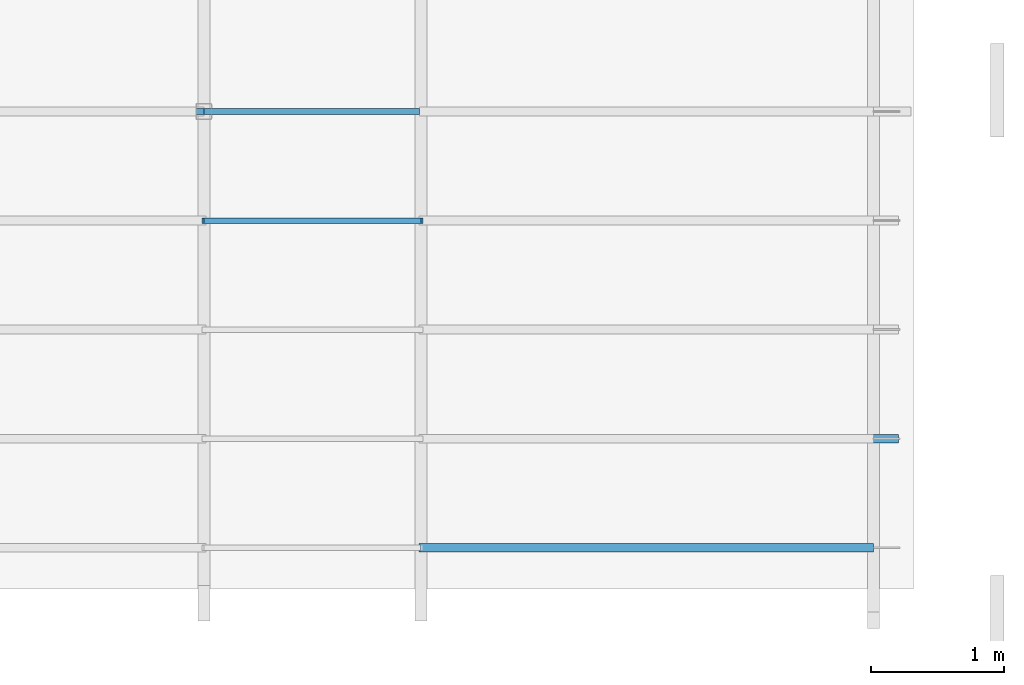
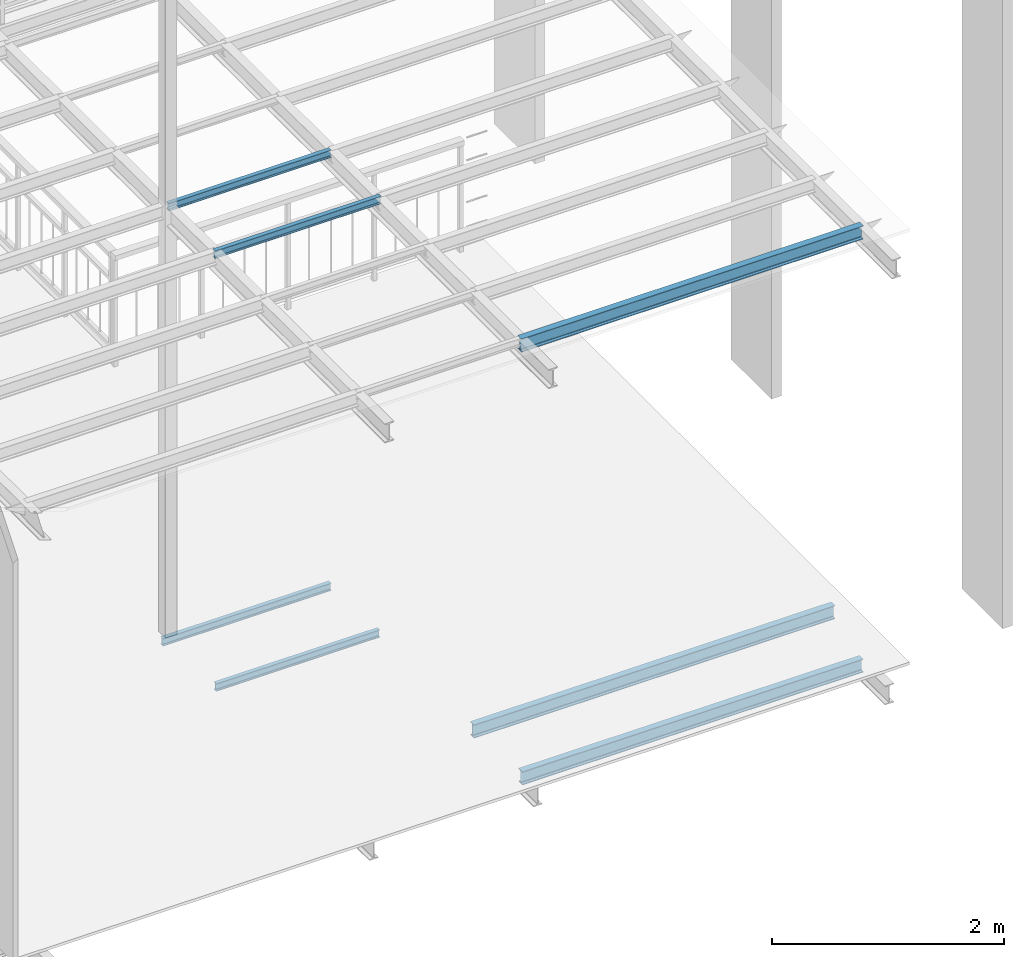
# One storey, part 5 of 33: 7 beams.
"""IFC2X3 building model written with IfcOpenShell, lengths in metres."""

from ifc_helpers import new_model, entity, si_unit, converted_unit, derived_unit, direction, frame, frame_2d, origin, place, context, subcontext, project, spatial, polyline, circle_curve, parameter, trimmed, segment, composite_curve, outline, extrude, material, type_object, element, save


model = new_model("IFC2X3")

# Units and contexts
model_context = context("Model", 3, precision=1e-05, world=origin(), true_north=direction((6.12303176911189e-17, 1.0)))
body_context = subcontext(model_context, "Body", "Model", "MODEL_VIEW")
ifc_project = project(units=[si_unit("LENGTHUNIT", "METRE"), si_unit("AREAUNIT", "SQUARE_METRE"), si_unit("VOLUMEUNIT", "CUBIC_METRE"), converted_unit("PLANEANGLEUNIT", "DEGREE", entity("IfcRatioMeasure", 0.0174532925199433), si_unit("PLANEANGLEUNIT", "RADIAN"), dimensions=[0, 0, 0, 0, 0, 0, 0]), si_unit("MASSUNIT", "GRAM", prefix="KILO"), derived_unit("MASSDENSITYUNIT", [(si_unit("MASSUNIT", "GRAM", prefix="KILO"), 1), (si_unit("LENGTHUNIT", "METRE"), -3)]), derived_unit("MOMENTOFINERTIAUNIT", [(si_unit("LENGTHUNIT", "METRE"), 4)]), si_unit("TIMEUNIT", "SECOND"), si_unit("FREQUENCYUNIT", "HERTZ"), si_unit("THERMODYNAMICTEMPERATUREUNIT", "DEGREE_CELSIUS"), derived_unit("THERMALTRANSMITTANCEUNIT", [(si_unit("MASSUNIT", "GRAM", prefix="KILO"), 1), (si_unit("THERMODYNAMICTEMPERATUREUNIT", "KELVIN"), -1), (si_unit("TIMEUNIT", "SECOND"), -3)]), derived_unit("VOLUMETRICFLOWRATEUNIT", [(si_unit("LENGTHUNIT", "METRE"), 3), (si_unit("TIMEUNIT", "SECOND"), -1)]), si_unit("ELECTRICCURRENTUNIT", "AMPERE"), si_unit("ELECTRICVOLTAGEUNIT", "VOLT"), si_unit("POWERUNIT", "WATT"), si_unit("FORCEUNIT", "NEWTON", prefix="KILO"), si_unit("ILLUMINANCEUNIT", "LUX"), si_unit("LUMINOUSFLUXUNIT", "LUMEN"), si_unit("LUMINOUSINTENSITYUNIT", "CANDELA"), derived_unit("USERDEFINED", [(si_unit("MASSUNIT", "GRAM", prefix="KILO"), -1), (si_unit("LENGTHUNIT", "METRE"), -2), (si_unit("TIMEUNIT", "SECOND"), 3), (si_unit("LUMINOUSFLUXUNIT", "LUMEN"), 1)]), derived_unit("LINEARVELOCITYUNIT", [(si_unit("LENGTHUNIT", "METRE"), 1), (si_unit("TIMEUNIT", "SECOND"), -1)]), si_unit("PRESSUREUNIT", "PASCAL"), derived_unit("USERDEFINED", [(si_unit("LENGTHUNIT", "METRE"), -2), (si_unit("MASSUNIT", "GRAM", prefix="KILO"), 1), (si_unit("TIMEUNIT", "SECOND"), -2)]), derived_unit("LINEARFORCEUNIT", [(si_unit("MASSUNIT", "GRAM", prefix="KILO"), 1), (si_unit("LENGTHUNIT", "METRE"), 1), (si_unit("TIMEUNIT", "SECOND"), -2), (si_unit("LENGTHUNIT", "METRE"), -1)]), derived_unit("PLANARFORCEUNIT", [(si_unit("MASSUNIT", "GRAM", prefix="KILO"), 1), (si_unit("LENGTHUNIT", "METRE"), 1), (si_unit("TIMEUNIT", "SECOND"), -2), (si_unit("LENGTHUNIT", "METRE"), -2)])], contexts=[model_context])

# Site, building, storey
site_placement = place(None, origin())
site = spatial("IfcSite", under=ifc_project, at=site_placement, Name="Superficie", CompositionType="ELEMENT")
building_placement = place(site_placement, origin())
building = spatial("IfcBuilding", under=site, at=building_placement, Name="Telegestiones", CompositionType="ELEMENT")
storey_placement = place(building_placement, frame((0.0, 0.0, 4.94)))
storey = spatial("IfcBuildingStorey", under=building, at=storey_placement, Name="Nivel 1_NPT", CompositionType="ELEMENT", Elevation=4.94)

# Beams
ifc_material = material(Name="Metal - Acero - 345 MPa")
beam_type_1 = type_object("IfcBeamType", Name="IPN - Secciones en I con alas cónicas:IPN 140", PredefinedType="NOTDEFINED")
beam_1_placement = place(storey_placement, frame((11.274812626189, -4.67964277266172, 0.0)))
element("IfcBeam", 1, at=beam_1_placement, inside=storey, type_object=beam_type_1, material=ifc_material, Name="IPN - Secciones en I con alas cónicas:IPN 140", ObjectType="IPN - Secciones en I con alas cónicas:IPN 140", context=body_context, shape_type="SweptSolid", body=[
    extrude(outline(composite_curve([segment(polyline([(0.0666671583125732, -0.0330000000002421), (0.0699999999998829, -0.0330000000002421)]), True, "CONTINUOUS"), segment(polyline([(0.0699999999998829, -0.0330000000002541), (0.0700000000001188, 0.0329999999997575)]), True, "CONTINUOUS"), segment(polyline([(0.0700000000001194, 0.0329999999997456), (0.0666671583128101, 0.0329999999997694)]), True, "CONTINUOUS"), segment(trimmed(circle_curve(frame_2d((0.0666671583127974, 0.0295999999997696), x_axis=(0.0, 1.0)), 0.00339999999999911), [parameter(0.0)], [parameter(82.0303896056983)], True, "PARAMETER"), True, "CONTINUOUS"), segment(polyline([(0.0632999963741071, 0.030071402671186), (0.0601763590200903, 0.00775970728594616)]), True, "CONTINUOUS"), segment(trimmed(circle_curve(frame_2d((0.0545314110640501, 0.00854999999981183), x_axis=(0.990341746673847, -0.138647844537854)), 0.00569999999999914), [parameter(277.969610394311)], [parameter(0.0)], True, "PARAMETER"), False, "CONTINUOUS"), segment(polyline([(0.0545314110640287, 0.00284999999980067), (-0.0545314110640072, 0.00285000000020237)]), True, "CONTINUOUS"), segment(trimmed(circle_curve(frame_2d((-0.0545314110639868, 0.00855000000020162), x_axis=(0.0, -1.0)), 0.00569999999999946), [parameter(277.969610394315)], [parameter(0.0)], True, "PARAMETER"), False, "CONTINUOUS"), segment(polyline([(-0.0601763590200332, 0.00775970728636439), (-0.06329999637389, 0.0300714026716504)]), True, "CONTINUOUS"), segment(trimmed(circle_curve(frame_2d((-0.0666671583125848, 0.0296000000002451), x_axis=(0.990341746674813, 0.138647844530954)), 0.0034000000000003), [parameter(0.0)], [parameter(82.0303896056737)], True, "PARAMETER"), True, "CONTINUOUS"), segment(polyline([(-0.0666671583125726, 0.033000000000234), (-0.0699999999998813, 0.0330000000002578)]), True, "CONTINUOUS"), segment(polyline([(-0.0699999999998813, 0.0330000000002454), (-0.0700000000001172, -0.0329999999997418)]), True, "CONTINUOUS"), segment(polyline([(-0.0700000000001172, -0.0329999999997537), (-0.0666671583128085, -0.0329999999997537)]), True, "CONTINUOUS"), segment(trimmed(circle_curve(frame_2d((-0.0666671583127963, -0.0295999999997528), x_axis=(0.0, -1.0)), 0.0034000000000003), [parameter(0.0)], [parameter(82.0303896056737)], True, "PARAMETER"), True, "CONTINUOUS"), segment(polyline([(-0.0632999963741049, -0.0300714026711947), (-0.0601763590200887, -0.007759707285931)]), True, "CONTINUOUS"), segment(trimmed(circle_curve(frame_2d((-0.054531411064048, -0.00854999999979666), x_axis=(-0.990341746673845, 0.138647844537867)), 0.00569999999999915), [parameter(277.969610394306)], [parameter(0.0)], True, "PARAMETER"), False, "CONTINUOUS"), segment(polyline([(-0.0545314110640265, -0.00284999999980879), (0.0545314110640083, -0.00285000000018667)]), True, "CONTINUOUS"), segment(trimmed(circle_curve(frame_2d((0.0545314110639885, -0.00855000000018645), x_axis=(0.0, 1.0)), 0.00569999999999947), [parameter(277.969610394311)], [parameter(0.0)], True, "PARAMETER"), False, "CONTINUOUS"), segment(polyline([(0.0601763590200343, -0.00775970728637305), (0.0632999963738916, -0.0300714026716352)]), True, "CONTINUOUS"), segment(trimmed(circle_curve(frame_2d((0.0666671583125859, -0.0296000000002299), x_axis=(-0.990341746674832, -0.13864784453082)), 0.00339999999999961), [parameter(0.0)], [parameter(82.0303896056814)], True, "PARAMETER"), True, "CONTINUOUS")], self_intersect=False)), frame((-0.0149999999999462, 0.0, -0.100000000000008), z_axis=(1.0, 0.0, 0.0), x_axis=(0.0, 0.0, -1.0)), (0.0, 0.0, 1.0), 3.59499999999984),
])
beam_type_2 = type_object("IfcBeamType", Name="EST-VI-PNI-Acero:EST-VI-IPN 140", PredefinedType="NOTDEFINED")
beam_2_placement = place(storey_placement, frame((11.2608126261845, -5.49739277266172, 0.0)))
element("IfcBeam", 2, at=beam_2_placement, inside=storey, type_object=beam_type_2, material=ifc_material, Name="EST-VI-PNI-Acero:EST-VI-IPN 140", ObjectType="EST-VI-PNI-Acero:EST-VI-IPN 140", context=body_context, shape_type="SweptSolid", body=[
    extrude(outline(composite_curve([segment(polyline([(0.0666671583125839, -0.033000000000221), (0.0699999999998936, -0.033000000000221)]), True, "CONTINUOUS"), segment(polyline([(0.0699999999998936, -0.0330000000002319), (0.0700000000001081, 0.0329999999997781)]), True, "CONTINUOUS"), segment(polyline([(0.0700000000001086, 0.0329999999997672), (0.0666671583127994, 0.0329999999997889)]), True, "CONTINUOUS"), segment(trimmed(circle_curve(frame_2d((0.0666671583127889, 0.0295999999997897), x_axis=(0.0, 1.0)), 0.00340000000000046), [parameter(0.0)], [parameter(82.0303896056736)], True, "PARAMETER"), True, "CONTINUOUS"), segment(polyline([(0.0632999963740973, 0.0300714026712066), (0.0601763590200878, 0.00775970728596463)]), True, "CONTINUOUS"), segment(trimmed(circle_curve(frame_2d((0.0545314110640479, 0.00854999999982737), x_axis=(0.990341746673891, -0.138647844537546)), 0.00569999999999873), [parameter(277.969610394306)], [parameter(0.0)], True, "PARAMETER"), False, "CONTINUOUS"), segment(polyline([(0.0545314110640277, 0.00284999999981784), (-0.0545314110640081, 0.00285000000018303)]), True, "CONTINUOUS"), segment(trimmed(circle_curve(frame_2d((-0.0545314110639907, 0.00855000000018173), x_axis=(0.0, -1.0)), 0.00569999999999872), [parameter(277.969610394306)], [parameter(0.0)], True, "PARAMETER"), False, "CONTINUOUS"), segment(polyline([(-0.0601763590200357, 0.00775970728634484), (-0.0632999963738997, 0.0300714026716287)]), True, "CONTINUOUS"), segment(trimmed(circle_curve(frame_2d((-0.0666671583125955, 0.0296000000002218), x_axis=(0.990341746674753, 0.138647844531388)), 0.00340000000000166), [parameter(0.0)], [parameter(82.0303896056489)], True, "PARAMETER"), True, "CONTINUOUS"), segment(polyline([(-0.0666671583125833, 0.0330000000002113), (-0.069999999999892, 0.0330000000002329)]), True, "CONTINUOUS"), segment(polyline([(-0.069999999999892, 0.0330000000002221), (-0.0700000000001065, -0.0329999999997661)]), True, "CONTINUOUS"), segment(polyline([(-0.0700000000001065, -0.032999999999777), (-0.0666671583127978, -0.032999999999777)]), True, "CONTINUOUS"), segment(trimmed(circle_curve(frame_2d((-0.0666671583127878, -0.0295999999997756), x_axis=(0.0, -1.0)), 0.00340000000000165), [parameter(0.0)], [parameter(82.0303896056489)], True, "PARAMETER"), True, "CONTINUOUS"), segment(polyline([(-0.0632999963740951, -0.0300714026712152), (-0.0601763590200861, -0.00775970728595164)]), True, "CONTINUOUS"), segment(trimmed(circle_curve(frame_2d((-0.0545314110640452, -0.00854999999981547), x_axis=(-0.99034174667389, 0.138647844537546)), 0.00569999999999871), [parameter(277.969610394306)], [parameter(0.0)], True, "PARAMETER"), False, "CONTINUOUS"), segment(polyline([(-0.0545314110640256, -0.00284999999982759), (0.0545314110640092, -0.00285000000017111)]), True, "CONTINUOUS"), segment(trimmed(circle_curve(frame_2d((0.0545314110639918, -0.00855000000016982), x_axis=(0.0, 1.0)), 0.0056999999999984), [parameter(277.969610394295)], [parameter(0.0)], True, "PARAMETER"), False, "CONTINUOUS"), segment(polyline([(0.0601763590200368, -0.0077597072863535), (0.0632999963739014, -0.0300714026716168)]), True, "CONTINUOUS"), segment(trimmed(circle_curve(frame_2d((0.0666671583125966, -0.0296000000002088), x_axis=(-0.99034174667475, -0.13864784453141)), 0.00340000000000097), [parameter(0.0)], [parameter(82.0303896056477)], True, "PARAMETER"), True, "CONTINUOUS")], self_intersect=False)), frame((0.00799999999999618, 0.0, -0.100000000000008), z_axis=(1.0, 0.0, 0.0), x_axis=(0.0, 0.0, -1.0)), (0.0, 0.0, 1.0), 3.396),
])
beam_3_placement = place(storey_placement, frame((11.2748126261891, -5.49739277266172, 4.56)))
element("IfcBeam", 3, at=beam_3_placement, inside=storey, type_object=beam_type_2, material=ifc_material, Name="EST-VI-PNI-Acero:EST-VI-IPN 140", ObjectType="EST-VI-PNI-Acero:EST-VI-IPN 140", context=body_context, shape_type="SweptSolid", body=[
    extrude(outline(composite_curve([segment(polyline([(0.0666671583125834, -0.0330000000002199), (0.0699999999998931, -0.0330000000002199)]), True, "CONTINUOUS"), segment(polyline([(0.0699999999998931, -0.0330000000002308), (0.0700000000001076, 0.0329999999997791)]), True, "CONTINUOUS"), segment(polyline([(0.0700000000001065, 0.0329999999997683), (0.0666671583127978, 0.03299999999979)]), True, "CONTINUOUS"), segment(trimmed(circle_curve(frame_2d((0.0666671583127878, 0.0295999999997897), x_axis=(0.0, 1.0)), 0.00340000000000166), [parameter(0.0)], [parameter(82.0303896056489)], True, "PARAMETER"), True, "CONTINUOUS"), segment(polyline([(0.0632999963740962, 0.0300714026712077), (0.0601763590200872, 0.00775970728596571)]), True, "CONTINUOUS"), segment(trimmed(circle_curve(frame_2d((0.0545314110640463, 0.00854999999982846), x_axis=(0.990341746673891, -0.138647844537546)), 0.00569999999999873), [parameter(277.969610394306)], [parameter(0.0)], True, "PARAMETER"), False, "CONTINUOUS"), segment(polyline([(0.0545314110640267, 0.00284999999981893), (-0.0545314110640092, 0.00285000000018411)]), True, "CONTINUOUS"), segment(trimmed(circle_curve(frame_2d((-0.0545314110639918, 0.00855000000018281), x_axis=(0.0, -1.0)), 0.00569999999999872), [parameter(277.969610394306)], [parameter(0.0)], True, "PARAMETER"), False, "CONTINUOUS"), segment(polyline([(-0.0601763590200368, 0.00775970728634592), (-0.0632999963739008, 0.0300714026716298)]), True, "CONTINUOUS"), segment(trimmed(circle_curve(frame_2d((-0.0666671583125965, 0.0296000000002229), x_axis=(0.990341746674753, 0.138647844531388)), 0.00340000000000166), [parameter(0.0)], [parameter(82.0303896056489)], True, "PARAMETER"), True, "CONTINUOUS"), segment(polyline([(-0.0666671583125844, 0.0330000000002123), (-0.0699999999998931, 0.033000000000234)]), True, "CONTINUOUS"), segment(polyline([(-0.0699999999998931, 0.0330000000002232), (-0.0700000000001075, -0.0329999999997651)]), True, "CONTINUOUS"), segment(polyline([(-0.0700000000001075, -0.0329999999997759), (-0.0666671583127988, -0.0329999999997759)]), True, "CONTINUOUS"), segment(trimmed(circle_curve(frame_2d((-0.0666671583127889, -0.0295999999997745), x_axis=(0.0, -1.0)), 0.00340000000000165), [parameter(0.0)], [parameter(82.0303896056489)], True, "PARAMETER"), True, "CONTINUOUS"), segment(polyline([(-0.0632999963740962, -0.0300714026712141), (-0.0601763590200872, -0.00775970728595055)]), True, "CONTINUOUS"), segment(trimmed(circle_curve(frame_2d((-0.0545314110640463, -0.00854999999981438), x_axis=(-0.990341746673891, 0.138647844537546)), 0.00569999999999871), [parameter(277.969610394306)], [parameter(0.0)], True, "PARAMETER"), False, "CONTINUOUS"), segment(polyline([(-0.0545314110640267, -0.00284999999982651), (0.0545314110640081, -0.00285000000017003)]), True, "CONTINUOUS"), segment(trimmed(circle_curve(frame_2d((0.0545314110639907, -0.00855000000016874), x_axis=(0.0, 1.0)), 0.0056999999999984), [parameter(277.969610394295)], [parameter(0.0)], True, "PARAMETER"), False, "CONTINUOUS"), segment(polyline([(0.0601763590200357, -0.00775970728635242), (0.0632999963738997, -0.0300714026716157)]), True, "CONTINUOUS"), segment(trimmed(circle_curve(frame_2d((0.0666671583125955, -0.0296000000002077), x_axis=(-0.990341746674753, -0.138647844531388)), 0.00340000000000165), [parameter(0.0)], [parameter(82.0303896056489)], True, "PARAMETER"), True, "CONTINUOUS")], self_intersect=False)), frame((-0.0150000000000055, 0.0, -0.100000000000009), z_axis=(1.0, 0.0, 0.0), x_axis=(0.0, 0.0, -1.0)), (0.0, 0.0, 1.0), 3.405),
])
beam_type_3 = type_object("IfcBeamType", Name="IPN - Secciones en I con alas cónicas:IPN 80", PredefinedType="NOTDEFINED")
beam_4_placement = place(storey_placement, frame((9.64481262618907, -2.22639277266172, 0.0)))
element("IfcBeam", 4, at=beam_4_placement, inside=storey, type_object=beam_type_3, material=ifc_material, Name="IPN - Secciones en I con alas cónicas:IPN 80", ObjectType="IPN - Secciones en I con alas cónicas:IPN 80", context=body_context, shape_type="SweptSolid", body=[
    extrude(outline(composite_curve([segment(polyline([(0.0375704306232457, -0.0210000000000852), (0.0399999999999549, -0.0210000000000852)]), True, "CONTINUOUS"), segment(polyline([(0.0399999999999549, -0.0210000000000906), (0.0400000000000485, 0.0209999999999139)]), True, "CONTINUOUS"), segment(polyline([(0.0400000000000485, 0.0209999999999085), (0.0375704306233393, 0.0209999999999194)]), True, "CONTINUOUS"), segment(trimmed(circle_curve(frame_2d((0.0375704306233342, 0.0186999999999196), x_axis=(0.0, 1.0)), 0.00229999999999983), [parameter(0.0)], [parameter(82.030389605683)], True, "PARAMETER"), True, "CONTINUOUS"), segment(polyline([(0.0352926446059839, 0.0190188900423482), (0.0333732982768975, 0.00530927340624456)]), True, "CONTINUOUS"), segment(trimmed(circle_curve(frame_2d((0.029510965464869, 0.00584999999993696), x_axis=(0.990341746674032, -0.13864784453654)), 0.0038999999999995), [parameter(277.969610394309)], [parameter(0.0)], True, "PARAMETER"), False, "CONTINUOUS"), segment(polyline([(0.0295109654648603, 0.0019499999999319), (-0.0295109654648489, 0.00195000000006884)]), True, "CONTINUOUS"), segment(trimmed(circle_curve(frame_2d((-0.0295109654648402, 0.00585000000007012), x_axis=(0.0, -1.0)), 0.00390000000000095), [parameter(277.969610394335)], [parameter(0.0)], True, "PARAMETER"), False, "CONTINUOUS"), segment(polyline([(-0.0333732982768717, 0.00530927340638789), (-0.035292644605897, 0.0190188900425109)]), True, "CONTINUOUS"), segment(trimmed(circle_curve(frame_2d((-0.0375704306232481, 0.0187000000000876), x_axis=(0.990341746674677, 0.138647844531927)), 0.00229999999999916), [parameter(0.0)], [parameter(82.0303896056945)], True, "PARAMETER"), True, "CONTINUOUS"), segment(polyline([(-0.037570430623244, 0.0210000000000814), (-0.0399999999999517, 0.0210000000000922)]), True, "CONTINUOUS"), segment(polyline([(-0.0399999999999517, 0.0210000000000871), (-0.0400000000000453, -0.0209999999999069)]), True, "CONTINUOUS"), segment(polyline([(-0.0400000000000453, -0.0209999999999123), (-0.0375704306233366, -0.0209999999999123)]), True, "CONTINUOUS"), segment(trimmed(circle_curve(frame_2d((-0.0375704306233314, -0.0186999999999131), x_axis=(0.0, -1.0)), 0.00229999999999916), [parameter(0.0)], [parameter(82.0303896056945)], True, "PARAMETER"), True, "CONTINUOUS"), segment(polyline([(-0.0352926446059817, -0.019018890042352), (-0.0333732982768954, -0.00530927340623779)]), True, "CONTINUOUS"), segment(trimmed(circle_curve(frame_2d((-0.0295109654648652, -0.00584999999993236), x_axis=(-0.990341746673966, 0.138647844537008)), 0.00390000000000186), [parameter(277.96961039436)], [parameter(0.0)], True, "PARAMETER"), False, "CONTINUOUS"), segment(polyline([(-0.0295109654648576, -0.00194999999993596), (0.0295109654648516, -0.00195000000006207)]), True, "CONTINUOUS"), segment(trimmed(circle_curve(frame_2d((0.0295109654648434, -0.00585000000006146), x_axis=(0.0, 1.0)), 0.00389999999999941), [parameter(277.969610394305)], [parameter(0.0)], True, "PARAMETER"), False, "CONTINUOUS"), segment(polyline([(0.0333732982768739, -0.00530927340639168), (0.0352926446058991, -0.0190188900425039)]), True, "CONTINUOUS"), segment(trimmed(circle_curve(frame_2d((0.0375704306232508, -0.01870000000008), x_axis=(-0.990341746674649, -0.138647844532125)), 0.00229999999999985), [parameter(0.0)], [parameter(82.030389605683)], True, "PARAMETER"), True, "CONTINUOUS")], self_intersect=False)), frame((-0.0600000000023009, 0.0, -0.0700000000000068), z_axis=(1.0, 0.0, 0.0), x_axis=(0.0, 0.0, -1.0)), (0.0, 0.0, 1.0), 1.67700000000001),
])
beam_5_placement = place(storey_placement, frame((9.64481262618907, -3.04414277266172, 0.0)))
element("IfcBeam", 5, at=beam_5_placement, inside=storey, type_object=beam_type_3, material=ifc_material, Name="IPN - Secciones en I con alas cónicas:IPN 80", ObjectType="IPN - Secciones en I con alas cónicas:IPN 80", context=body_context, shape_type="SweptSolid", body=[
    extrude(outline(composite_curve([segment(polyline([(0.0375704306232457, -0.021000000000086), (0.0399999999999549, -0.021000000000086)]), True, "CONTINUOUS"), segment(polyline([(0.0399999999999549, -0.0210000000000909), (0.0400000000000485, 0.0209999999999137)]), True, "CONTINUOUS"), segment(polyline([(0.0400000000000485, 0.0209999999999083), (0.0375704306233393, 0.0209999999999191)]), True, "CONTINUOUS"), segment(trimmed(circle_curve(frame_2d((0.0375704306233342, 0.0186999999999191), x_axis=(0.0, 1.0)), 0.00229999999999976), [parameter(0.0)], [parameter(82.0303896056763)], True, "PARAMETER"), True, "CONTINUOUS"), segment(polyline([(0.0352926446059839, 0.019018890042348), (0.0333732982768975, 0.00530927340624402)]), True, "CONTINUOUS"), segment(trimmed(circle_curve(frame_2d((0.0295109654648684, 0.00584999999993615), x_axis=(0.990341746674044, -0.138647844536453)), 0.00389999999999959), [parameter(277.969610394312)], [parameter(0.0)], True, "PARAMETER"), False, "CONTINUOUS"), segment(polyline([(0.0295109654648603, 0.00194999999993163), (-0.0295109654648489, 0.00195000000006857)]), True, "CONTINUOUS"), segment(trimmed(circle_curve(frame_2d((-0.0295109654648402, 0.00585000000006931), x_axis=(0.0, -1.0)), 0.00390000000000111), [parameter(277.969610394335)], [parameter(0.0)], True, "PARAMETER"), False, "CONTINUOUS"), segment(polyline([(-0.0333732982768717, 0.00530927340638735), (-0.035292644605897, 0.0190188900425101)]), True, "CONTINUOUS"), segment(trimmed(circle_curve(frame_2d((-0.0375704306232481, 0.0187000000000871), x_axis=(0.990341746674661, 0.138647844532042)), 0.00229999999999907), [parameter(0.0)], [parameter(82.0303896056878)], True, "PARAMETER"), True, "CONTINUOUS"), segment(polyline([(-0.037570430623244, 0.0210000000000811), (-0.0399999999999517, 0.0210000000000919)]), True, "CONTINUOUS"), segment(polyline([(-0.0399999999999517, 0.021000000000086), (-0.0400000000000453, -0.0209999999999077)]), True, "CONTINUOUS"), segment(polyline([(-0.0400000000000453, -0.0209999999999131), (-0.0375704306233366, -0.0209999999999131)]), True, "CONTINUOUS"), segment(trimmed(circle_curve(frame_2d((-0.0375704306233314, -0.0186999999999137), x_axis=(0.0, -1.0)), 0.00229999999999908), [parameter(0.0)], [parameter(82.0303896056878)], True, "PARAMETER"), True, "CONTINUOUS"), segment(polyline([(-0.0352926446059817, -0.0190188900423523), (-0.0333732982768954, -0.00530927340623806)]), True, "CONTINUOUS"), segment(trimmed(circle_curve(frame_2d((-0.0295109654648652, -0.0058499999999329), x_axis=(-0.990341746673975, 0.13864784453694)), 0.00390000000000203), [parameter(277.969610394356)], [parameter(0.0)], True, "PARAMETER"), False, "CONTINUOUS"), segment(polyline([(-0.0295109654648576, -0.0019499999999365), (0.0295109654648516, -0.00195000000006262)]), True, "CONTINUOUS"), segment(trimmed(circle_curve(frame_2d((0.0295109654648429, -0.00585000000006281), x_axis=(0.0, 1.0)), 0.00389999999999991), [parameter(277.96961039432)], [parameter(0.0)], True, "PARAMETER"), False, "CONTINUOUS"), segment(polyline([(0.0333732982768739, -0.00530927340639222), (0.0352926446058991, -0.0190188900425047)]), True, "CONTINUOUS"), segment(trimmed(circle_curve(frame_2d((0.0375704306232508, -0.0187000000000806), x_axis=(-0.990341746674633, -0.138647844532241)), 0.00229999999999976), [parameter(0.0)], [parameter(82.0303896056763)], True, "PARAMETER"), True, "CONTINUOUS")], self_intersect=False)), frame((0.0, 0.0, -0.0700000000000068), z_axis=(1.0, 0.0, 0.0), x_axis=(0.0, 0.0, -1.0)), (0.0, 0.0, 1.0), 1.63),
])
beam_6_placement = place(storey_placement, frame((9.64481262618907, -2.22639277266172, 4.56)))
element("IfcBeam", 6, at=beam_6_placement, inside=storey, type_object=beam_type_3, material=ifc_material, Name="IPN - Secciones en I con alas cónicas:IPN 80", ObjectType="IPN - Secciones en I con alas cónicas:IPN 80", context=body_context, shape_type="SweptSolid", body=[
    extrude(outline(composite_curve([segment(polyline([(0.0375704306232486, -0.0210000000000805), (0.0399999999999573, -0.0210000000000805)]), True, "CONTINUOUS"), segment(polyline([(0.0399999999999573, -0.0210000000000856), (0.0400000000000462, 0.0209999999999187)]), True, "CONTINUOUS"), segment(polyline([(0.0400000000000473, 0.0209999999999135), (0.0375704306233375, 0.0209999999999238)]), True, "CONTINUOUS"), segment(trimmed(circle_curve(frame_2d((0.0375704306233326, 0.0186999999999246), x_axis=(0.0, 1.0)), 0.00229999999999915), [parameter(0.0)], [parameter(82.0303896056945)], True, "PARAMETER"), True, "CONTINUOUS"), segment(polyline([(0.0352926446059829, 0.0190188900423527), (0.0333732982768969, 0.00530927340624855)]), True, "CONTINUOUS"), segment(trimmed(circle_curve(frame_2d((0.0295109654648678, 0.00584999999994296), x_axis=(0.990341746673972, -0.138647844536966)), 0.00390000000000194), [parameter(277.969610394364)], [parameter(0.0)], True, "PARAMETER"), False, "CONTINUOUS"), segment(polyline([(0.0295109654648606, 0.00194999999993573), (-0.0295109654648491, 0.00195000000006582)]), True, "CONTINUOUS"), segment(trimmed(circle_curve(frame_2d((-0.0295109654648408, 0.0058500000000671), x_axis=(0.0, -1.0)), 0.00390000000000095), [parameter(277.969610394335)], [parameter(0.0)], True, "PARAMETER"), False, "CONTINUOUS"), segment(polyline([(-0.0333732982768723, 0.00530927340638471), (-0.0352926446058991, 0.0190188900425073)]), True, "CONTINUOUS"), segment(trimmed(circle_curve(frame_2d((-0.0375704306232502, 0.0187000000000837), x_axis=(0.990341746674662, 0.138647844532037)), 0.00229999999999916), [parameter(0.0)], [parameter(82.0303896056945)], True, "PARAMETER"), True, "CONTINUOUS"), segment(polyline([(-0.0375704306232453, 0.0210000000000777), (-0.0399999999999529, 0.021000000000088)]), True, "CONTINUOUS"), segment(polyline([(-0.0399999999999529, 0.0210000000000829), (-0.0400000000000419, -0.0209999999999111)]), True, "CONTINUOUS"), segment(polyline([(-0.0400000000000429, -0.0209999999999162), (-0.0375704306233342, -0.0209999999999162)]), True, "CONTINUOUS"), segment(trimmed(circle_curve(frame_2d((-0.0375704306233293, -0.018699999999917), x_axis=(0.0, -1.0)), 0.00229999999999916), [parameter(0.0)], [parameter(82.0303896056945)], True, "PARAMETER"), True, "CONTINUOUS"), segment(polyline([(-0.0352926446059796, -0.0190188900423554), (-0.0333732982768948, -0.00530927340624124)]), True, "CONTINUOUS"), segment(trimmed(circle_curve(frame_2d((-0.0295109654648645, -0.00584999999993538), x_axis=(-0.990341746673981, 0.138647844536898)), 0.00390000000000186), [parameter(277.96961039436)], [parameter(0.0)], True, "PARAMETER"), False, "CONTINUOUS"), segment(polyline([(-0.0295109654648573, -0.0019499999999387), (0.0295109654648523, -0.00195000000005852)]), True, "CONTINUOUS"), segment(trimmed(circle_curve(frame_2d((0.0295109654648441, -0.00585000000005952), x_axis=(0.0, 1.0)), 0.00390000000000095), [parameter(277.969610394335)], [parameter(0.0)], True, "PARAMETER"), False, "CONTINUOUS"), segment(polyline([(0.0333732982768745, -0.00530927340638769), (0.0352926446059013, -0.0190188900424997)]), True, "CONTINUOUS"), segment(trimmed(circle_curve(frame_2d((0.0375704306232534, -0.0187000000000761), x_axis=(-0.990341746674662, -0.138647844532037)), 0.00229999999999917), [parameter(0.0)], [parameter(82.0303896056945)], True, "PARAMETER"), True, "CONTINUOUS")], self_intersect=False)), frame((0.0, 0.0, -0.0700000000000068), z_axis=(1.0, 0.0, 0.0), x_axis=(0.0, 0.0, -1.0)), (0.0, 0.0, 1.0), 1.617),
])
beam_7_placement = place(storey_placement, frame((9.64481262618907, -3.04414277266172, 4.56)))
element("IfcBeam", 7, at=beam_7_placement, inside=storey, type_object=beam_type_3, material=ifc_material, Name="IPN - Secciones en I con alas cónicas:IPN 80", ObjectType="IPN - Secciones en I con alas cónicas:IPN 80", context=body_context, shape_type="SweptSolid", body=[
    extrude(outline(composite_curve([segment(polyline([(0.0375704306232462, -0.021000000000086), (0.0399999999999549, -0.021000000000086)]), True, "CONTINUOUS"), segment(polyline([(0.0399999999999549, -0.0210000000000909), (0.0400000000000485, 0.0209999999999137)]), True, "CONTINUOUS"), segment(polyline([(0.0400000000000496, 0.0209999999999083), (0.0375704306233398, 0.0209999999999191)]), True, "CONTINUOUS"), segment(trimmed(circle_curve(frame_2d((0.0375704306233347, 0.0186999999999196), x_axis=(0.0, 1.0)), 0.00229999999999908), [parameter(0.0)], [parameter(82.0303896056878)], True, "PARAMETER"), True, "CONTINUOUS"), segment(polyline([(0.035292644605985, 0.0190188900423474), (0.0333732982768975, 0.00530927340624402)]), True, "CONTINUOUS"), segment(trimmed(circle_curve(frame_2d((0.0295109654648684, 0.00584999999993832), x_axis=(0.990341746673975, -0.13864784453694)), 0.00390000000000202), [parameter(277.969610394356)], [parameter(0.0)], True, "PARAMETER"), False, "CONTINUOUS"), segment(polyline([(0.0295109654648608, 0.00194999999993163), (-0.0295109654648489, 0.00195000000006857)]), True, "CONTINUOUS"), segment(trimmed(circle_curve(frame_2d((-0.0295109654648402, 0.00585000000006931), x_axis=(0.0, -1.0)), 0.00390000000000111), [parameter(277.969610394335)], [parameter(0.0)], True, "PARAMETER"), False, "CONTINUOUS"), segment(polyline([(-0.0333732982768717, 0.00530927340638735), (-0.035292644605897, 0.0190188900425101)]), True, "CONTINUOUS"), segment(trimmed(circle_curve(frame_2d((-0.0375704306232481, 0.0187000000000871), x_axis=(0.990341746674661, 0.138647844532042)), 0.00229999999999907), [parameter(0.0)], [parameter(82.0303896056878)], True, "PARAMETER"), True, "CONTINUOUS"), segment(polyline([(-0.037570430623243, 0.0210000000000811), (-0.0399999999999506, 0.0210000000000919)]), True, "CONTINUOUS"), segment(polyline([(-0.0399999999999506, 0.021000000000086), (-0.0400000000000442, -0.0209999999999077)]), True, "CONTINUOUS"), segment(polyline([(-0.0400000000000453, -0.0209999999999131), (-0.0375704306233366, -0.0209999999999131)]), True, "CONTINUOUS"), segment(trimmed(circle_curve(frame_2d((-0.0375704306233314, -0.0186999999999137), x_axis=(0.0, -1.0)), 0.00229999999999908), [parameter(0.0)], [parameter(82.0303896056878)], True, "PARAMETER"), True, "CONTINUOUS"), segment(polyline([(-0.0352926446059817, -0.0190188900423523), (-0.0333732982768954, -0.00530927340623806)]), True, "CONTINUOUS"), segment(trimmed(circle_curve(frame_2d((-0.0295109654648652, -0.0058499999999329), x_axis=(-0.990341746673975, 0.13864784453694)), 0.00390000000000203), [parameter(277.969610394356)], [parameter(0.0)], True, "PARAMETER"), False, "CONTINUOUS"), segment(polyline([(-0.0295109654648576, -0.0019499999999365), (0.0295109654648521, -0.00195000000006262)]), True, "CONTINUOUS"), segment(trimmed(circle_curve(frame_2d((0.0295109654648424, -0.0058500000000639), x_axis=(0.0, 1.0)), 0.00390000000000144), [parameter(277.969610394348)], [parameter(0.0)], True, "PARAMETER"), False, "CONTINUOUS"), segment(polyline([(0.0333732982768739, -0.00530927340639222), (0.0352926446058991, -0.0190188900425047)]), True, "CONTINUOUS"), segment(trimmed(circle_curve(frame_2d((0.0375704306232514, -0.0187000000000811), x_axis=(-0.990341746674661, -0.138647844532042)), 0.00229999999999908), [parameter(0.0)], [parameter(82.0303896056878)], True, "PARAMETER"), True, "CONTINUOUS")], self_intersect=False)), frame((-0.0149999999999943, 0.0, -0.0700000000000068), z_axis=(1.0, 0.0, 0.0), x_axis=(0.0, 0.0, -1.0)), (0.0, 0.0, 1.0), 1.66),
])

save(model, "model.ifc")
